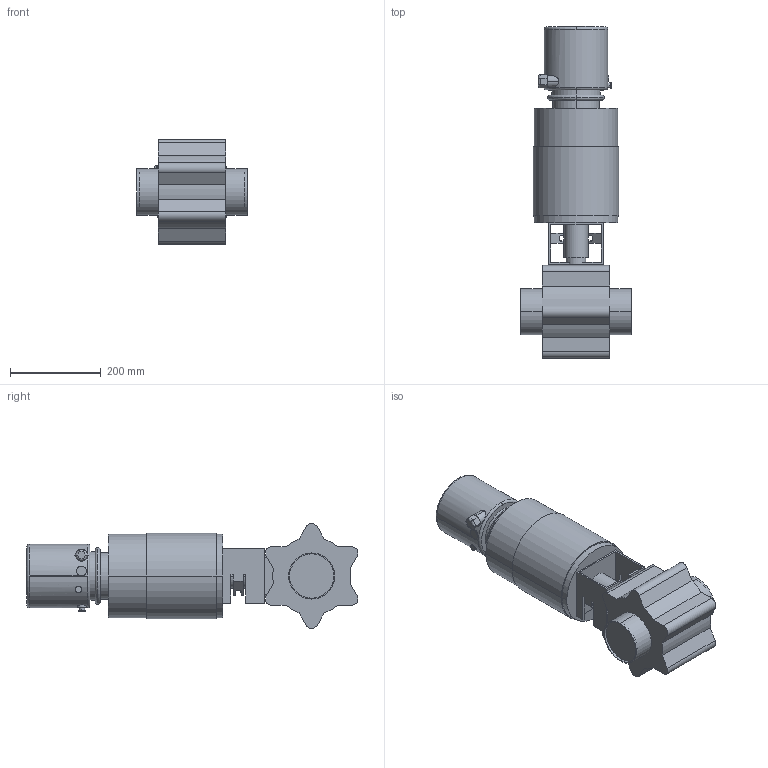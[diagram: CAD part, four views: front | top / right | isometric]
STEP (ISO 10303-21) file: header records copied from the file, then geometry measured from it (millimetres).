
FILE_DESCRIPTION(('Creo Elements/Direct Modeling STEP Export'),'2;1');
FILE_NAME('BLV1-4T-NC-12S-CU4.stp','2019-05-10T 8:32:36',(''),(''),'Creo Elements/Direct Modeling STEP processor for AP214 (Solid Model)','Creo Elements/Direct Modeling 19.0F 14-Feb-2017 (C) Parametric Technology GmbH','');
FILE_SCHEMA(('AUTOMOTIVE_DESIGN { 1 0 10303 214 1 1 1 1 }'));
Length unit declared in the file: millimetre
Products named in the file (2): BLV1-4T-NC-12S-CU4
Assembly tree (1 placements, depth 2):
  BLV1-4T-NC-12S-CU4
    BLV1-4T-NC-12S-CU4
Bounding box: 243 x 731.7 x 231 mm (x, y, z)
Volume: 15032165.6 mm3; surface area: 576580.6 mm2
Topology: 1 solids, 2 shells, 254 faces, 659 edges, 432 vertices
Faces by surface type: cylinder 126, plane 118, torus 10
Entity records: 10776 total; most frequent: CARTESIAN_POINT 4559, ORIENTED_EDGE 1320, DIRECTION 1221, EDGE_CURVE 660, AXIS2_PLACEMENT_3D 447, VERTEX_POINT 432, VECTOR 327, LINE 327
